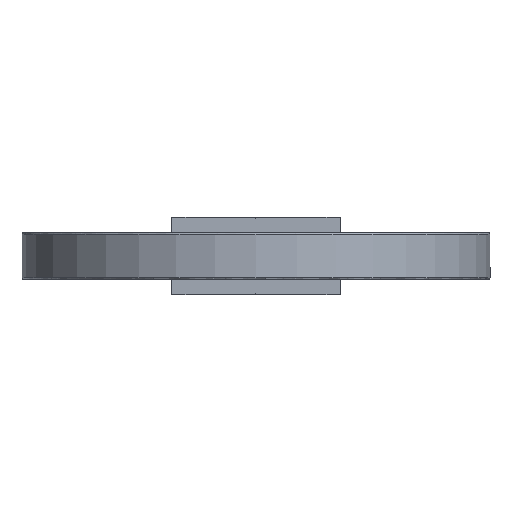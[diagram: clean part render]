
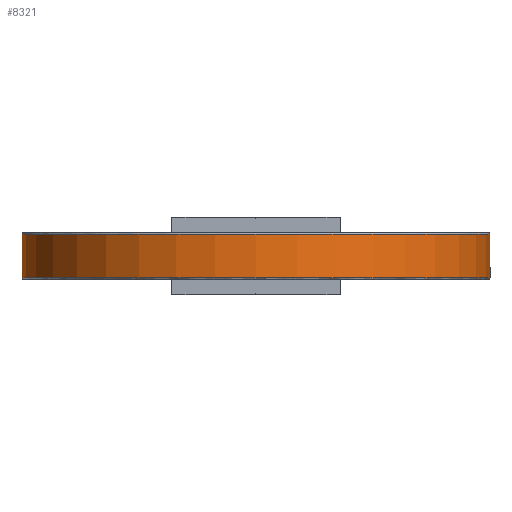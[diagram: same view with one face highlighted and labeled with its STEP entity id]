
A CAD part, front view. The second image highlights one B-rep face of the part: STEP entity #8321.
In plain terms, the highlighted cylindrical face has radius 50 mm (diameter 100 mm), a partial arc.
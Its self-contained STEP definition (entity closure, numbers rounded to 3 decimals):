
#50 = AXIS2_PLACEMENT_3D ( 'NONE', #733, #704, #2777 ) ;
#94 = EDGE_LOOP ( 'NONE', ( #8107, #1390, #5420, #7347 ) ) ;
#217 = CARTESIAN_POINT ( 'NONE',  ( 0., 0., 50. ) ) ;
#704 = DIRECTION ( 'NONE',  ( 0., -1., 0. ) ) ;
#719 = EDGE_CURVE ( 'NONE', #6049, #1074, #1576, .T. ) ;
#733 = CARTESIAN_POINT ( 'NONE',  ( 0., 9.6, 0. ) ) ;
#735 = EDGE_CURVE ( 'NONE', #5456, #8005, #2227, .T. ) ;
#766 = DIRECTION ( 'NONE',  ( 0., -1., 0. ) ) ;
#1074 = VERTEX_POINT ( 'NONE', #4513 ) ;
#1287 = DIRECTION ( 'NONE',  ( 0., 0., -1. ) ) ;
#1390 = ORIENTED_EDGE ( 'NONE', *, *, #719, .T. ) ;
#1450 = LINE ( 'NONE', #217, #4546 ) ;
#1576 = CIRCLE ( 'NONE', #50, 50. ) ;
#2227 = CIRCLE ( 'NONE', #3608, 50. ) ;
#2777 = DIRECTION ( 'NONE',  ( 0., 0., -1. ) ) ;
#3230 = FACE_OUTER_BOUND ( 'NONE', #94, .T. ) ;
#3250 = CARTESIAN_POINT ( 'NONE',  ( 0., 9.6, 50. ) ) ;
#3393 = DIRECTION ( 'NONE',  ( 0., -1., 0. ) ) ;
#3552 = DIRECTION ( 'NONE',  ( 0., -1., 0. ) ) ;
#3608 = AXIS2_PLACEMENT_3D ( 'NONE', #4287, #766, #6317 ) ;
#4052 = CARTESIAN_POINT ( 'NONE',  ( 0., 0., 0. ) ) ;
#4115 = CYLINDRICAL_SURFACE ( 'NONE', #5510, 50. ) ;
#4287 = CARTESIAN_POINT ( 'NONE',  ( 0., 0.4, 0. ) ) ;
#4513 = CARTESIAN_POINT ( 'NONE',  ( 0., 9.6, -50. ) ) ;
#4546 = VECTOR ( 'NONE', #3552, 1000. ) ;
#4561 = VECTOR ( 'NONE', #8257, 1000. ) ;
#4878 = CARTESIAN_POINT ( 'NONE',  ( 0., 0.4, 50. ) ) ;
#5420 = ORIENTED_EDGE ( 'NONE', *, *, #8316, .T. ) ;
#5456 = VERTEX_POINT ( 'NONE', #4878 ) ;
#5510 = AXIS2_PLACEMENT_3D ( 'NONE', #4052, #3393, #1287 ) ;
#5700 = EDGE_CURVE ( 'NONE', #6049, #5456, #1450, .T. ) ;
#6049 = VERTEX_POINT ( 'NONE', #3250 ) ;
#6179 = LINE ( 'NONE', #7565, #4561 ) ;
#6317 = DIRECTION ( 'NONE',  ( 0., 0., -1. ) ) ;
#7347 = ORIENTED_EDGE ( 'NONE', *, *, #735, .F. ) ;
#7565 = CARTESIAN_POINT ( 'NONE',  ( 0., 0., -50. ) ) ;
#8005 = VERTEX_POINT ( 'NONE', #8671 ) ;
#8107 = ORIENTED_EDGE ( 'NONE', *, *, #5700, .F. ) ;
#8257 = DIRECTION ( 'NONE',  ( 0., -1., 0. ) ) ;
#8316 = EDGE_CURVE ( 'NONE', #1074, #8005, #6179, .T. ) ;
#8321 = ADVANCED_FACE ( 'NONE', ( #3230 ), #4115, .T. ) ;
#8671 = CARTESIAN_POINT ( 'NONE',  ( 0., 0.4, -50. ) ) ;
